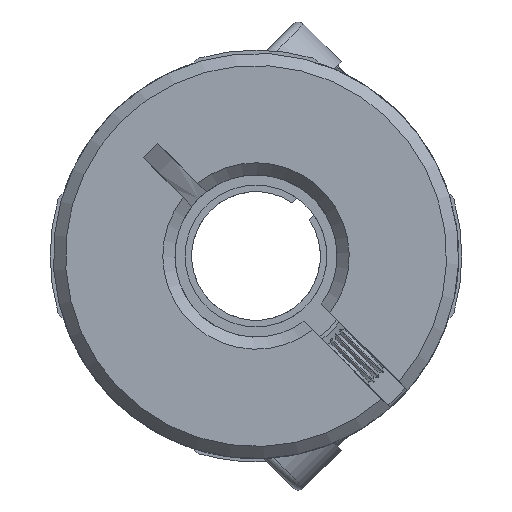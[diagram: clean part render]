
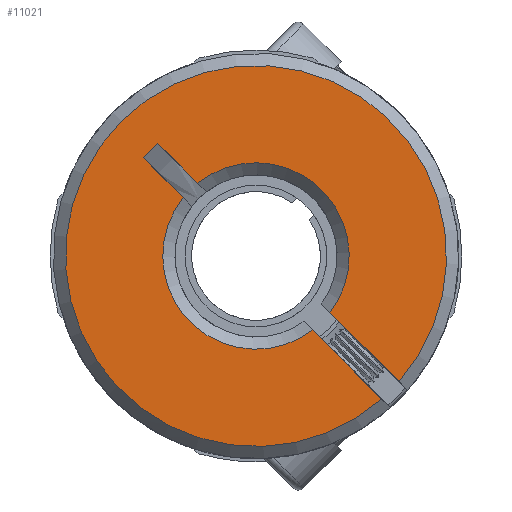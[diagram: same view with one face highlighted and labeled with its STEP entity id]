
A CAD part, front view. The second image highlights one B-rep face of the part: STEP entity #11021.
In plain terms, the highlighted planar face has unit normal (0, -1, 0).
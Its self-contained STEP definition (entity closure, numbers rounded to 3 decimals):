
#6 = VERTEX_POINT ( 'NONE', #4356 ) ;
#229 = EDGE_CURVE ( 'NONE', #12070, #1061, #8036, .T. ) ;
#555 = VERTEX_POINT ( 'NONE', #12040 ) ;
#764 = EDGE_CURVE ( 'NONE', #7346, #6963, #6601, .T. ) ;
#988 = CARTESIAN_POINT ( 'NONE',  ( 6.209, -12.6, -7.058 ) ) ;
#1061 = VERTEX_POINT ( 'NONE', #5475 ) ;
#1266 = ORIENTED_EDGE ( 'NONE', *, *, #3675, .T. ) ;
#1435 = ORIENTED_EDGE ( 'NONE', *, *, #3413, .T. ) ;
#1462 = VECTOR ( 'NONE', #11671, 1000. ) ;
#2303 = DIRECTION ( 'NONE',  ( 0., -1., 0. ) ) ;
#2344 = CARTESIAN_POINT ( 'NONE',  ( 0., -12.6, 0. ) ) ;
#2383 = DIRECTION ( 'NONE',  ( 0.707, 0., -0.707 ) ) ;
#3042 = CIRCLE ( 'NONE', #8140, 4.6 ) ;
#3087 = LINE ( 'NONE', #6815, #5313 ) ;
#3382 = CARTESIAN_POINT ( 'NONE',  ( 2.372, -12.6, -3.221 ) ) ;
#3413 = EDGE_CURVE ( 'NONE', #8688, #8775, #11164, .T. ) ;
#3553 = AXIS2_PLACEMENT_3D ( 'NONE', #6457, #6410, #2383 ) ;
#3675 = EDGE_CURVE ( 'NONE', #7346, #555, #3042, .T. ) ;
#3759 = DIRECTION ( 'NONE',  ( -0.707, 0., -0.707 ) ) ;
#4050 = VECTOR ( 'NONE', #4198, 1000. ) ;
#4071 = AXIS2_PLACEMENT_3D ( 'NONE', #12466, #2303, #5434 ) ;
#4198 = DIRECTION ( 'NONE',  ( 0.707, 0., -0.707 ) ) ;
#4356 = CARTESIAN_POINT ( 'NONE',  ( 7.058, -12.6, -6.209 ) ) ;
#4411 = ORIENTED_EDGE ( 'NONE', *, *, #764, .F. ) ;
#4594 = VECTOR ( 'NONE', #7468, 1000. ) ;
#4704 = EDGE_CURVE ( 'NONE', #6, #6963, #8269, .T. ) ;
#4711 = VECTOR ( 'NONE', #3759, 1000. ) ;
#4836 = ORIENTED_EDGE ( 'NONE', *, *, #6192, .F. ) ;
#4895 = CARTESIAN_POINT ( 'NONE',  ( 0., -12.6, 0. ) ) ;
#5313 = VECTOR ( 'NONE', #10871, 1000. ) ;
#5434 = DIRECTION ( 'NONE',  ( 0.707, 0., -0.707 ) ) ;
#5442 = FACE_OUTER_BOUND ( 'NONE', #7959, .T. ) ;
#5475 = CARTESIAN_POINT ( 'NONE',  ( -5.549, -12.6, 4.842 ) ) ;
#5516 = DIRECTION ( 'NONE',  ( 0.707, 0., -0.707 ) ) ;
#6192 = EDGE_CURVE ( 'NONE', #6, #8775, #8294, .T. ) ;
#6258 = AXIS2_PLACEMENT_3D ( 'NONE', #2344, #9469, #5516 ) ;
#6289 = ORIENTED_EDGE ( 'NONE', *, *, #8321, .F. ) ;
#6410 = DIRECTION ( 'NONE',  ( 0., 1., 0. ) ) ;
#6457 = CARTESIAN_POINT ( 'NONE',  ( 342.528, -12.6, 364.579 ) ) ;
#6601 = LINE ( 'NONE', #3382, #4050 ) ;
#6615 = CARTESIAN_POINT ( 'NONE',  ( 3.221, -12.6, -2.372 ) ) ;
#6815 = CARTESIAN_POINT ( 'NONE',  ( 5.657, -12.6, -4.95 ) ) ;
#6940 = DIRECTION ( 'NONE',  ( 0.707, 0., -0.707 ) ) ;
#6963 = VERTEX_POINT ( 'NONE', #988 ) ;
#7346 = VERTEX_POINT ( 'NONE', #8736 ) ;
#7468 = DIRECTION ( 'NONE',  ( 0.707, 0., -0.707 ) ) ;
#7959 = EDGE_LOOP ( 'NONE', ( #12543, #1435, #4836, #8854, #4411, #1266, #6289, #9833 ) ) ;
#8036 = LINE ( 'NONE', #9870, #4711 ) ;
#8140 = AXIS2_PLACEMENT_3D ( 'NONE', #4895, #9034, #6940 ) ;
#8269 = CIRCLE ( 'NONE', #4071, 9.4 ) ;
#8294 = LINE ( 'NONE', #6615, #1462 ) ;
#8321 = EDGE_CURVE ( 'NONE', #1061, #555, #12036, .T. ) ;
#8688 = VERTEX_POINT ( 'NONE', #13082 ) ;
#8706 = CARTESIAN_POINT ( 'NONE',  ( -4.842, -12.6, 5.549 ) ) ;
#8736 = CARTESIAN_POINT ( 'NONE',  ( 2.801, -12.6, -3.649 ) ) ;
#8775 = VERTEX_POINT ( 'NONE', #9093 ) ;
#8854 = ORIENTED_EDGE ( 'NONE', *, *, #4704, .T. ) ;
#9034 = DIRECTION ( 'NONE',  ( 0., 1., 0. ) ) ;
#9093 = CARTESIAN_POINT ( 'NONE',  ( 3.649, -12.6, -2.801 ) ) ;
#9469 = DIRECTION ( 'NONE',  ( 0., 1., 0. ) ) ;
#9833 = ORIENTED_EDGE ( 'NONE', *, *, #229, .F. ) ;
#9870 = CARTESIAN_POINT ( 'NONE',  ( -4.842, -12.6, 5.549 ) ) ;
#10411 = CARTESIAN_POINT ( 'NONE',  ( 4.95, -12.6, -5.657 ) ) ;
#10871 = DIRECTION ( 'NONE',  ( 0.707, 0., -0.707 ) ) ;
#11021 = ADVANCED_FACE ( 'NONE', ( #5442 ), #12502, .F. ) ;
#11164 = CIRCLE ( 'NONE', #6258, 4.6 ) ;
#11671 = DIRECTION ( 'NONE',  ( -0.707, 0., 0.707 ) ) ;
#12036 = LINE ( 'NONE', #10411, #4594 ) ;
#12040 = CARTESIAN_POINT ( 'NONE',  ( -3.587, -12.6, 2.88 ) ) ;
#12070 = VERTEX_POINT ( 'NONE', #8706 ) ;
#12439 = EDGE_CURVE ( 'NONE', #12070, #8688, #3087, .T. ) ;
#12466 = CARTESIAN_POINT ( 'NONE',  ( 0., -12.6, 0. ) ) ;
#12502 = PLANE ( 'NONE',  #3553 ) ;
#12543 = ORIENTED_EDGE ( 'NONE', *, *, #12439, .T. ) ;
#13082 = CARTESIAN_POINT ( 'NONE',  ( -2.88, -12.6, 3.587 ) ) ;
